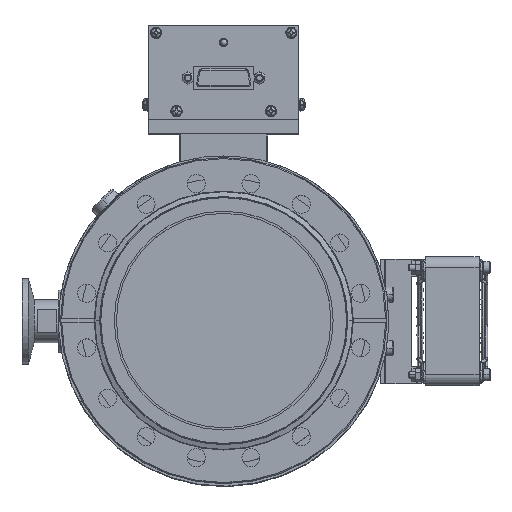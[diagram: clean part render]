
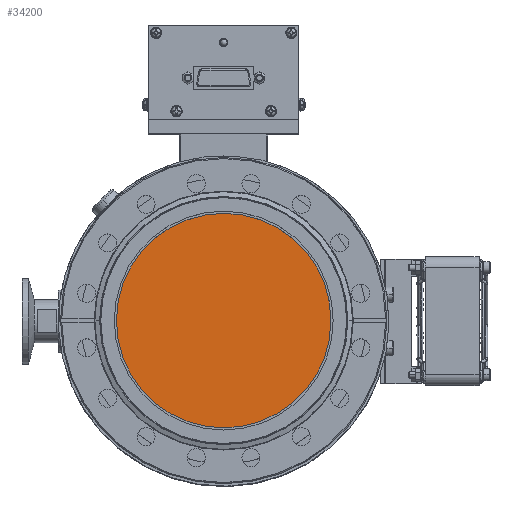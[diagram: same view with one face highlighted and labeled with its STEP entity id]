
A CAD part, top view. The second image highlights one B-rep face of the part: STEP entity #34200.
In plain terms, the highlighted planar face has unit normal (0, 0, 1).
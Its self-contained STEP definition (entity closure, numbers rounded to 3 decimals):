
#33650=CARTESIAN_POINT('',(0.,50.,-17.225));
#33660=VERTEX_POINT('',#33650);
#33740=CARTESIAN_POINT('',(0.,-50.,-17.225)
);
#33750=VERTEX_POINT('',#33740);
#33780=CARTESIAN_POINT('',(0.,0.,-17.225));
#33790=DIRECTION('',(0.,0.,1.));
#33800=DIRECTION('',(0.,-1.,0.));
#33810=AXIS2_PLACEMENT_3D('',#33780,#33790,#33800);
#33820=CIRCLE('',#33810,50.);
#33830=EDGE_CURVE('',#33750,#33660,#33820,.T.);
#34100=CARTESIAN_POINT('',(0.,50.,-17.225))
;
#34110=DIRECTION('',(0.,0.,-1.));
#34120=DIRECTION('',(0.,1.,0.));
#34130=AXIS2_PLACEMENT_3D('',#34100,#34110,#34120);
#34140=PLANE('',#34130);
#34150=EDGE_CURVE('',#33660,#33750,#33820,.T.);
#34160=ORIENTED_EDGE('',*,*,#34150,.T.);
#34170=ORIENTED_EDGE('',*,*,#33830,.T.);
#34180=EDGE_LOOP('',(#34170,#34160));
#34190=FACE_OUTER_BOUND('',#34180,.T.);
#34200=ADVANCED_FACE('',(#34190),#34140,.F.);
